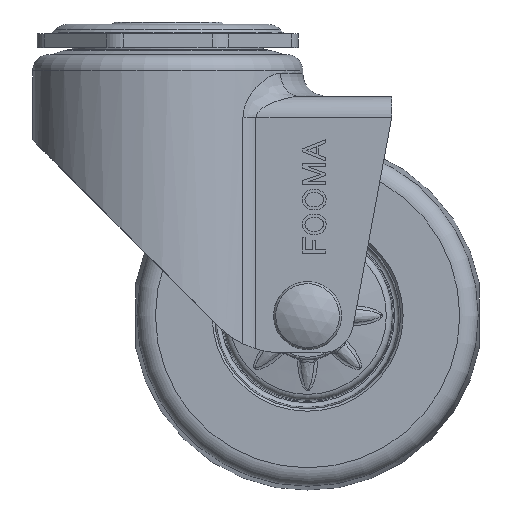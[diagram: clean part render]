
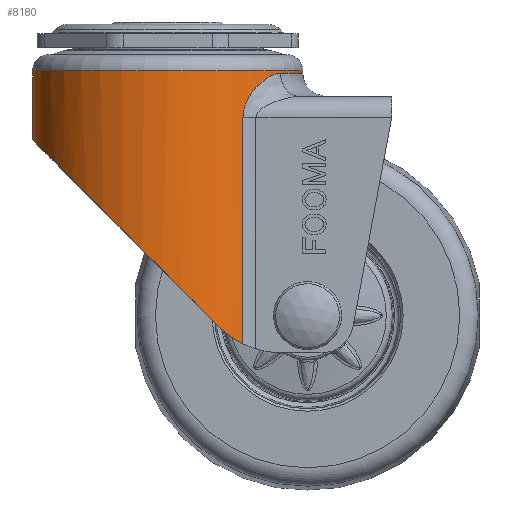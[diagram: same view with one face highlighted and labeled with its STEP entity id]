
A CAD part, front view. The second image highlights one B-rep face of the part: STEP entity #8180.
In plain terms, the highlighted cylindrical face has radius 29 mm (diameter 58 mm), a full revolution.
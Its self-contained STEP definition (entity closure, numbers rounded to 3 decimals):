
#15=ELLIPSE('',#8723,41.103,29.);
#813=FACE_OUTER_BOUND('',#1303,.T.);
#1303=EDGE_LOOP('',(#6768,#6769,#6770,#6771,#6772,#6773,#6774,#6775,#6776,
#6777,#6778,#6779));
#1748=B_SPLINE_CURVE_WITH_KNOTS('',3,(#19021,#19022,#19023,#19024,#19025,
#19026,#19027,#19028),.UNSPECIFIED.,.F.,.F.,(4,2,2,4),(-13.47,
-13.249,-12.782,-12.767),.UNSPECIFIED.);
#1753=B_SPLINE_CURVE_WITH_KNOTS('',3,(#19067,#19068,#19069,#19070,#19071,
#19072,#19073,#19074),.UNSPECIFIED.,.F.,.F.,(4,2,2,4),(-7.232,
-7.217,-6.75,-6.529),.UNSPECIFIED.);
#1756=B_SPLINE_CURVE_WITH_KNOTS('',3,(#19160,#19161,#19162,#19163,#19164,
#19165,#19166,#19167,#19168,#19169,#19170,#19171),.UNSPECIFIED.,.F.,.F.,
(4,2,2,2,2,4),(0.,3.172,6.345,12.064,15.638,
17.872),.UNSPECIFIED.);
#1757=B_SPLINE_CURVE_WITH_KNOTS('',3,(#19175,#19176,#19177,#19178,#19179,
#19180,#19181,#19182,#19183,#19184,#19185,#19186,#19187,#19188),
 .UNSPECIFIED.,.F.,.F.,(4,2,2,2,2,2,4),(0.,4.68,9.875,
13.405,15.611,16.99,17.852),
 .UNSPECIFIED.);
#2043=CIRCLE('',#8725,29.);
#2044=CIRCLE('',#8726,29.);
#2045=CIRCLE('',#8727,29.);
#2582=LINE('',#19147,#3016);
#2584=LINE('',#19173,#3018);
#2585=LINE('',#19191,#3019);
#3016=VECTOR('',#10135,50.076);
#3018=VECTOR('',#10153,50.076);
#3019=VECTOR('',#10156,29.);
#3643=VERTEX_POINT('',#19013);
#3644=VERTEX_POINT('',#19020);
#3649=VERTEX_POINT('',#19064);
#3650=VERTEX_POINT('',#19066);
#3655=VERTEX_POINT('',#19146);
#3657=VERTEX_POINT('',#19157);
#3658=VERTEX_POINT('',#19158);
#3659=VERTEX_POINT('',#19172);
#3660=VERTEX_POINT('',#19174);
#3661=VERTEX_POINT('',#19190);
#4704=EDGE_CURVE('',#3644,#3643,#1748,.T.);
#4712=EDGE_CURVE('',#3650,#3649,#1753,.T.);
#4725=EDGE_CURVE('',#3650,#3655,#2582,.T.);
#4730=EDGE_CURVE('',#3649,#3644,#15,.T.);
#4731=EDGE_CURVE('',#3657,#3658,#2043,.T.);
#4732=EDGE_CURVE('',#3655,#3657,#1756,.T.);
#4733=EDGE_CURVE('',#3659,#3643,#2584,.T.);
#4734=EDGE_CURVE('',#3660,#3659,#1757,.T.);
#4735=EDGE_CURVE('',#3658,#3660,#2044,.T.);
#4736=EDGE_CURVE('',#3658,#3661,#2585,.T.);
#4737=EDGE_CURVE('',#3661,#3661,#2045,.T.);
#6768=ORIENTED_EDGE('',*,*,#4731,.F.);
#6769=ORIENTED_EDGE('',*,*,#4732,.F.);
#6770=ORIENTED_EDGE('',*,*,#4725,.F.);
#6771=ORIENTED_EDGE('',*,*,#4712,.T.);
#6772=ORIENTED_EDGE('',*,*,#4730,.T.);
#6773=ORIENTED_EDGE('',*,*,#4704,.T.);
#6774=ORIENTED_EDGE('',*,*,#4733,.F.);
#6775=ORIENTED_EDGE('',*,*,#4734,.F.);
#6776=ORIENTED_EDGE('',*,*,#4735,.F.);
#6777=ORIENTED_EDGE('',*,*,#4736,.T.);
#6778=ORIENTED_EDGE('',*,*,#4737,.T.);
#6779=ORIENTED_EDGE('',*,*,#4736,.F.);
#7435=CYLINDRICAL_SURFACE('',#8724,29.);
#8180=ADVANCED_FACE('',(#813),#7435,.T.);
#8723=AXIS2_PLACEMENT_3D('',#19155,#10147,#10148);
#8724=AXIS2_PLACEMENT_3D('',#19156,#10149,#10150);
#8725=AXIS2_PLACEMENT_3D('',#19159,#10151,#10152);
#8726=AXIS2_PLACEMENT_3D('',#19189,#10154,#10155);
#8727=AXIS2_PLACEMENT_3D('',#19192,#10157,#10158);
#10135=DIRECTION('',(0.,0.,1.));
#10147=DIRECTION('center_axis',(0.709,0.,
0.706));
#10148=DIRECTION('ref_axis',(-0.706,0.,0.709));
#10149=DIRECTION('center_axis',(0.,0.,-1.));
#10150=DIRECTION('ref_axis',(-1.,0.,0.));
#10151=DIRECTION('center_axis',(0.,0.,-1.));
#10152=DIRECTION('ref_axis',(1.,0.,0.));
#10153=DIRECTION('',(0.,0.,-1.));
#10154=DIRECTION('center_axis',(0.,0.,-1.));
#10155=DIRECTION('ref_axis',(1.,0.,0.));
#10156=DIRECTION('',(0.,0.,1.));
#10157=DIRECTION('center_axis',(0.,0.,-1.));
#10158=DIRECTION('ref_axis',(-1.,0.,0.));
#19013=CARTESIAN_POINT('',(16.137,-24.096,-68.993));
#19020=CARTESIAN_POINT('',(10.696,-26.955,-65.111));
#19021=CARTESIAN_POINT('Ctrl Pts',(10.696,-26.955,-65.111));
#19022=CARTESIAN_POINT('Ctrl Pts',(11.206,-26.753,-65.623));
#19023=CARTESIAN_POINT('Ctrl Pts',(11.734,-26.526,-66.098));
#19024=CARTESIAN_POINT('Ctrl Pts',(13.409,-25.745,-67.456));
#19025=CARTESIAN_POINT('Ctrl Pts',(14.712,-25.039,-68.29));
#19026=CARTESIAN_POINT('Ctrl Pts',(16.053,-24.151,-68.952));
#19027=CARTESIAN_POINT('Ctrl Pts',(16.095,-24.124,-68.973));
#19028=CARTESIAN_POINT('Ctrl Pts',(16.137,-24.096,-68.993));
#19064=CARTESIAN_POINT('',(10.696,26.955,-65.111));
#19066=CARTESIAN_POINT('',(16.137,24.096,-68.993));
#19067=CARTESIAN_POINT('Ctrl Pts',(16.137,24.096,-68.993));
#19068=CARTESIAN_POINT('Ctrl Pts',(16.095,24.124,-68.973));
#19069=CARTESIAN_POINT('Ctrl Pts',(16.053,24.151,-68.952));
#19070=CARTESIAN_POINT('Ctrl Pts',(14.712,25.039,-68.29));
#19071=CARTESIAN_POINT('Ctrl Pts',(13.409,25.745,-67.456));
#19072=CARTESIAN_POINT('Ctrl Pts',(11.734,26.526,-66.098));
#19073=CARTESIAN_POINT('Ctrl Pts',(11.206,26.753,-65.623));
#19074=CARTESIAN_POINT('Ctrl Pts',(10.696,26.955,-65.111));
#19146=CARTESIAN_POINT('',(16.137,24.096,-20.5));
#19147=CARTESIAN_POINT('',(16.137,24.096,-70.576));
#19155=CARTESIAN_POINT('Origin',(0.,0.,-54.367));
#19156=CARTESIAN_POINT('Origin',(0.,0.,-60.));
#19157=CARTESIAN_POINT('',(24.192,15.993,-11.));
#19158=CARTESIAN_POINT('',(29.,0.,-11.));
#19159=CARTESIAN_POINT('Origin',(0.,0.,-11.));
#19160=CARTESIAN_POINT('Ctrl Pts',(16.137,24.096,-20.5));
#19161=CARTESIAN_POINT('Ctrl Pts',(16.137,24.096,-19.443));
#19162=CARTESIAN_POINT('Ctrl Pts',(16.378,23.937,-18.395));
#19163=CARTESIAN_POINT('Ctrl Pts',(17.118,23.413,-16.564));
#19164=CARTESIAN_POINT('Ctrl Pts',(17.613,23.049,-15.75));
#19165=CARTESIAN_POINT('Ctrl Pts',(19.087,21.867,-13.774));
#19166=CARTESIAN_POINT('Ctrl Pts',(20.162,20.9,-12.798));
#19167=CARTESIAN_POINT('Ctrl Pts',(21.846,19.096,-11.676));
#19168=CARTESIAN_POINT('Ctrl Pts',(22.485,18.342,-11.358));
#19169=CARTESIAN_POINT('Ctrl Pts',(23.473,17.041,-11.061));
#19170=CARTESIAN_POINT('Ctrl Pts',(23.841,16.523,-11.));
#19171=CARTESIAN_POINT('Ctrl Pts',(24.192,15.993,-11.));
#19172=CARTESIAN_POINT('',(16.137,-24.096,-20.5));
#19173=CARTESIAN_POINT('',(16.137,-24.096,-20.5));
#19174=CARTESIAN_POINT('',(24.192,-15.993,-11.));
#19175=CARTESIAN_POINT('Ctrl Pts',(24.192,-15.993,-11.));
#19176=CARTESIAN_POINT('Ctrl Pts',(23.458,-17.103,-11.));
#19177=CARTESIAN_POINT('Ctrl Pts',(22.648,-18.157,-11.265));
#19178=CARTESIAN_POINT('Ctrl Pts',(20.876,-20.179,-12.255));
#19179=CARTESIAN_POINT('Ctrl Pts',(19.909,-21.122,-13.018));
#19180=CARTESIAN_POINT('Ctrl Pts',(18.36,-22.463,-14.706));
#19181=CARTESIAN_POINT('Ctrl Pts',(17.76,-22.935,-15.495));
#19182=CARTESIAN_POINT('Ctrl Pts',(16.937,-23.543,-16.994));
#19183=CARTESIAN_POINT('Ctrl Pts',(16.658,-23.74,-17.63));
#19184=CARTESIAN_POINT('Ctrl Pts',(16.334,-23.963,-18.733));
#19185=CARTESIAN_POINT('Ctrl Pts',(16.24,-24.027,-19.18));
#19186=CARTESIAN_POINT('Ctrl Pts',(16.154,-24.084,-19.924));
#19187=CARTESIAN_POINT('Ctrl Pts',(16.137,-24.096,-20.213));
#19188=CARTESIAN_POINT('Ctrl Pts',(16.137,-24.096,-20.5));
#19189=CARTESIAN_POINT('Origin',(0.,0.,-11.));
#19190=CARTESIAN_POINT('',(29.,0.,-10.5));
#19191=CARTESIAN_POINT('',(29.,0.,-60.));
#19192=CARTESIAN_POINT('Origin',(0.,0.,-10.5));
